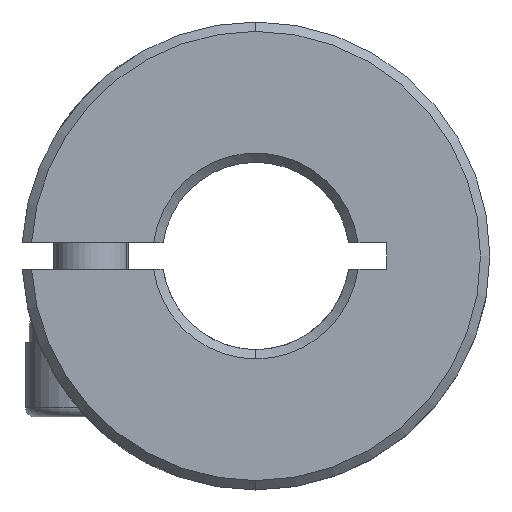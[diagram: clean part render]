
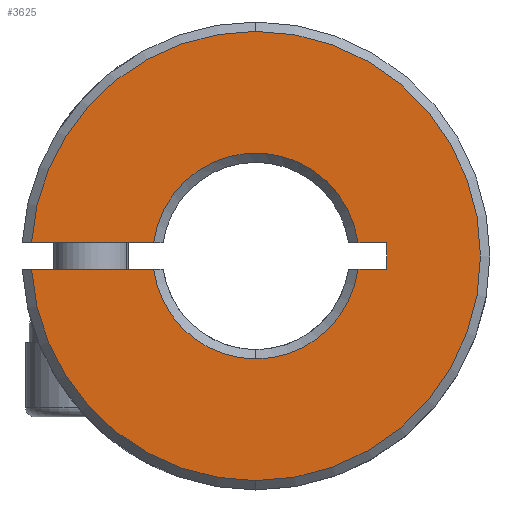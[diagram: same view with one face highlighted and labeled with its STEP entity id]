
A CAD part, front view. The second image highlights one B-rep face of the part: STEP entity #3625.
In plain terms, the highlighted planar face has unit normal (0, -1, 0).
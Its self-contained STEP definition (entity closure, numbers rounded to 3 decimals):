
#19 = ORIENTED_EDGE ( 'NONE', *, *, #6306, .F. ) ;
#71 = CARTESIAN_POINT ( 'NONE',  ( 7., 0.25, 0.7 ) ) ;
#111 = DIRECTION ( 'NONE',  ( 0., 0., 1. ) ) ;
#122 = EDGE_CURVE ( 'NONE', #4649, #1989, #857, .T. ) ;
#198 = ORIENTED_EDGE ( 'NONE', *, *, #253, .F. ) ;
#253 = EDGE_CURVE ( 'NONE', #2138, #2739, #2489, .T. ) ;
#262 = EDGE_CURVE ( 'NONE', #2969, #1952, #1901, .T. ) ;
#311 = DIRECTION ( 'NONE',  ( 0., -1., 0. ) ) ;
#316 = DIRECTION ( 'NONE',  ( 0., 1., 0. ) ) ;
#354 = EDGE_CURVE ( 'NONE', #1989, #2889, #5671, .T. ) ;
#577 = CARTESIAN_POINT ( 'NONE',  ( 7., 0.25, 0.7 ) ) ;
#648 = DIRECTION ( 'NONE',  ( 0., -1., 0. ) ) ;
#653 = CARTESIAN_POINT ( 'NONE',  ( -12.75, 0.25, -0.7 ) ) ;
#857 = LINE ( 'NONE', #71, #2796 ) ;
#1044 = CARTESIAN_POINT ( 'NONE',  ( 0., 0.25, 12. ) ) ;
#1070 = VECTOR ( 'NONE', #5154, 1000. ) ;
#1127 = DIRECTION ( 'NONE',  ( 0., 0., 1. ) ) ;
#1152 = CARTESIAN_POINT ( 'NONE',  ( -5.455, 0.25, 0.7 ) ) ;
#1194 = ORIENTED_EDGE ( 'NONE', *, *, #5065, .T. ) ;
#1216 = CIRCLE ( 'NONE', #2062, 5.5 ) ;
#1275 = ORIENTED_EDGE ( 'NONE', *, *, #122, .F. ) ;
#1311 = CARTESIAN_POINT ( 'NONE',  ( 0., 0.25, -5.5 ) ) ;
#1398 = CARTESIAN_POINT ( 'NONE',  ( 0., 0.25, -12. ) ) ;
#1484 = ORIENTED_EDGE ( 'NONE', *, *, #3909, .F. ) ;
#1603 = CARTESIAN_POINT ( 'NONE',  ( -12.75, 0.25, -0.7 ) ) ;
#1635 = EDGE_CURVE ( 'NONE', #2138, #2889, #3467, .T. ) ;
#1723 = CIRCLE ( 'NONE', #4488, 12. ) ;
#1727 = DIRECTION ( 'NONE',  ( 0., 1., 0. ) ) ;
#1786 = CARTESIAN_POINT ( 'NONE',  ( 0., 0.25, 0. ) ) ;
#1901 = CIRCLE ( 'NONE', #2937, 12. ) ;
#1952 = VERTEX_POINT ( 'NONE', #1398 ) ;
#1959 = EDGE_CURVE ( 'NONE', #4771, #4858, #1216, .T. ) ;
#1989 = VERTEX_POINT ( 'NONE', #577 ) ;
#2012 = CARTESIAN_POINT ( 'NONE',  ( 0., 0.25, 0. ) ) ;
#2036 = CIRCLE ( 'NONE', #4944, 12. ) ;
#2054 = VERTEX_POINT ( 'NONE', #1044 ) ;
#2062 = AXIS2_PLACEMENT_3D ( 'NONE', #2012, #3452, #111 ) ;
#2138 = VERTEX_POINT ( 'NONE', #1152 ) ;
#2179 = DIRECTION ( 'NONE',  ( -1., 0., 0. ) ) ;
#2219 = CARTESIAN_POINT ( 'NONE',  ( 5.455, 0.25, 0.7 ) ) ;
#2239 = CARTESIAN_POINT ( 'NONE',  ( 0., 0.25, 0. ) ) ;
#2302 = DIRECTION ( 'NONE',  ( 0., 0., 1. ) ) ;
#2454 = ORIENTED_EDGE ( 'NONE', *, *, #354, .F. ) ;
#2489 = LINE ( 'NONE', #5064, #6200 ) ;
#2729 = CARTESIAN_POINT ( 'NONE',  ( -500., 0.25, -13.609 ) ) ;
#2739 = VERTEX_POINT ( 'NONE', #5853 ) ;
#2796 = VECTOR ( 'NONE', #3448, 1000. ) ;
#2889 = VERTEX_POINT ( 'NONE', #2219 ) ;
#2899 = ORIENTED_EDGE ( 'NONE', *, *, #1635, .T. ) ;
#2937 = AXIS2_PLACEMENT_3D ( 'NONE', #3531, #5025, #3600 ) ;
#2947 = LINE ( 'NONE', #653, #6117 ) ;
#2969 = VERTEX_POINT ( 'NONE', #5275 ) ;
#3078 = DIRECTION ( 'NONE',  ( 1., 0., 0. ) ) ;
#3231 = DIRECTION ( 'NONE',  ( 0., 0., 1. ) ) ;
#3263 = DIRECTION ( 'NONE',  ( 0., 0., 1. ) ) ;
#3326 = VECTOR ( 'NONE', #5011, 1000. ) ;
#3448 = DIRECTION ( 'NONE',  ( 0., 0., 1. ) ) ;
#3452 = DIRECTION ( 'NONE',  ( 0., 1., 0. ) ) ;
#3467 = CIRCLE ( 'NONE', #5729, 5.5 ) ;
#3531 = CARTESIAN_POINT ( 'NONE',  ( 0., 0.25, 0. ) ) ;
#3543 = EDGE_CURVE ( 'NONE', #2054, #2739, #2036, .T. ) ;
#3599 = CARTESIAN_POINT ( 'NONE',  ( 7., 0.25, -0.7 ) ) ;
#3600 = DIRECTION ( 'NONE',  ( 0., 0., 1. ) ) ;
#3625 = ADVANCED_FACE ( 'NONE', ( #4164 ), #5665, .F. ) ;
#3909 = EDGE_CURVE ( 'NONE', #2969, #4858, #4946, .T. ) ;
#4164 = FACE_OUTER_BOUND ( 'NONE', #5219, .T. ) ;
#4221 = DIRECTION ( 'NONE',  ( 0., 1., 0. ) ) ;
#4381 = ORIENTED_EDGE ( 'NONE', *, *, #5293, .T. ) ;
#4488 = AXIS2_PLACEMENT_3D ( 'NONE', #1786, #648, #3231 ) ;
#4604 = CARTESIAN_POINT ( 'NONE',  ( 0., 0.25, 0. ) ) ;
#4631 = CARTESIAN_POINT ( 'NONE',  ( -12.75, 0.25, 0.7 ) ) ;
#4649 = VERTEX_POINT ( 'NONE', #3599 ) ;
#4771 = VERTEX_POINT ( 'NONE', #1311 ) ;
#4816 = ORIENTED_EDGE ( 'NONE', *, *, #262, .T. ) ;
#4826 = CARTESIAN_POINT ( 'NONE',  ( -5.455, 0.25, -0.7 ) ) ;
#4858 = VERTEX_POINT ( 'NONE', #4826 ) ;
#4944 = AXIS2_PLACEMENT_3D ( 'NONE', #5172, #311, #2302 ) ;
#4946 = LINE ( 'NONE', #1603, #3326 ) ;
#4976 = ORIENTED_EDGE ( 'NONE', *, *, #1959, .T. ) ;
#5011 = DIRECTION ( 'NONE',  ( 1., 0., 0. ) ) ;
#5025 = DIRECTION ( 'NONE',  ( 0., -1., 0. ) ) ;
#5064 = CARTESIAN_POINT ( 'NONE',  ( -12.75, 0.25, 0.7 ) ) ;
#5065 = EDGE_CURVE ( 'NONE', #1952, #2054, #1723, .T. ) ;
#5154 = DIRECTION ( 'NONE',  ( -1., 0., 0. ) ) ;
#5172 = CARTESIAN_POINT ( 'NONE',  ( 0., 0.25, 0. ) ) ;
#5199 = VERTEX_POINT ( 'NONE', #5797 ) ;
#5219 = EDGE_LOOP ( 'NONE', ( #19, #4381, #4976, #1484, #4816, #1194, #5474, #198, #2899, #2454, #1275 ) ) ;
#5275 = CARTESIAN_POINT ( 'NONE',  ( -11.98, 0.25, -0.7 ) ) ;
#5293 = EDGE_CURVE ( 'NONE', #5199, #4771, #6242, .T. ) ;
#5415 = AXIS2_PLACEMENT_3D ( 'NONE', #4604, #1727, #6123 ) ;
#5474 = ORIENTED_EDGE ( 'NONE', *, *, #3543, .T. ) ;
#5665 = PLANE ( 'NONE',  #5701 ) ;
#5671 = LINE ( 'NONE', #4631, #1070 ) ;
#5701 = AXIS2_PLACEMENT_3D ( 'NONE', #2729, #4221, #3263 ) ;
#5729 = AXIS2_PLACEMENT_3D ( 'NONE', #2239, #316, #1127 ) ;
#5797 = CARTESIAN_POINT ( 'NONE',  ( 5.455, 0.25, -0.7 ) ) ;
#5853 = CARTESIAN_POINT ( 'NONE',  ( -11.98, 0.25, 0.7 ) ) ;
#6117 = VECTOR ( 'NONE', #3078, 1000. ) ;
#6123 = DIRECTION ( 'NONE',  ( 0., 0., 1. ) ) ;
#6200 = VECTOR ( 'NONE', #2179, 1000. ) ;
#6242 = CIRCLE ( 'NONE', #5415, 5.5 ) ;
#6306 = EDGE_CURVE ( 'NONE', #5199, #4649, #2947, .T. ) ;
